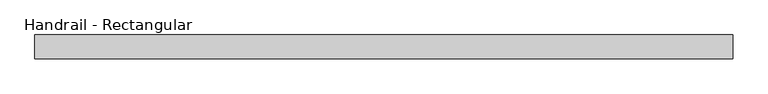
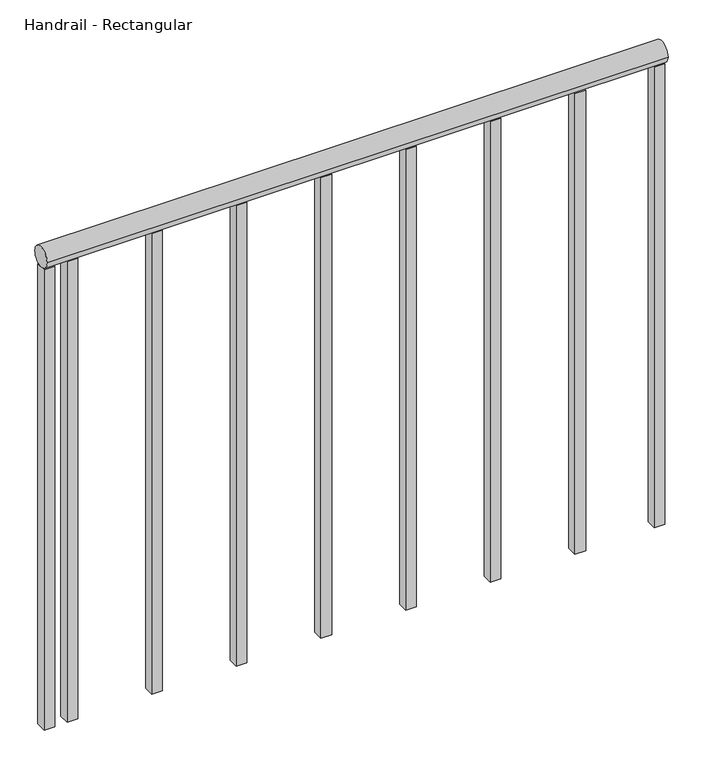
"""IFC4 building model written with IfcOpenShell, lengths in millimetres: railing geometry, Handrail - Rectangular."""

from ifc_helpers import new_model, si_unit, point, frame, frame_2d, origin, place, context, project, spatial, polyline, circle_curve, trimmed, segment, composite_curve, outline, extrude, source, transform, mapped, element, save


def handrail_rectangular_1508d83e(model_context):
    return source(origin(), model_context, "Body", "SweptSolid", [
        extrude(outline(composite_curve([segment(trimmed(circle_curve(frame_2d((4375.6316867, 3943.35)), 19.05), [point((4356.5816867, 3943.35))], [point((4394.6816867, 3943.35))], False, "CARTESIAN"), True, "CONTINUOUS"), segment(trimmed(circle_curve(frame_2d((4375.6316867, 3943.35)), 19.05), [point((4394.6816867, 3943.35))], [point((4356.5816867, 3943.35))], False, "CARTESIAN"), True, "CONTINUOUS")], self_intersect=False)), frame((976.3410437, 0.0, 0.0), z_axis=(1.0, 0.0, 0.0), x_axis=(0.0, 1.0, 0.0)), (0.0, 0.0, 1.0), 1117.6),
        extrude(outline(polyline([(1036.6660437, 4385.1566867), (1036.6660437, 4366.1066867), (1017.6160437, 4366.1066867), (1017.6160437, 4385.1566867), (1036.6660437, 4385.1566867)])), frame((0.0, 0.0, 3048.0), z_axis=(0.0, 0.0, 1.0), x_axis=(1.0, 0.0, 0.0)), (0.0, 0.0, 1.0), 876.3),
        extrude(outline(polyline([(1189.0660437, 4385.1566867), (1189.0660437, 4366.1066867), (1170.0160437, 4366.1066867), (1170.0160437, 4385.1566867), (1189.0660437, 4385.1566867)])), frame((0.0, 0.0, 3048.0), z_axis=(0.0, 0.0, 1.0), x_axis=(1.0, 0.0, 0.0)), (0.0, 0.0, 1.0), 876.3),
        extrude(outline(polyline([(1341.4660437, 4385.1566867), (1341.4660437, 4366.1066867), (1322.4160437, 4366.1066867), (1322.4160437, 4385.1566867), (1341.4660437, 4385.1566867)])), frame((0.0, 0.0, 3048.0), z_axis=(0.0, 0.0, 1.0), x_axis=(1.0, 0.0, 0.0)), (0.0, 0.0, 1.0), 876.3),
        extrude(outline(polyline([(1493.8660437, 4385.1566867), (1493.8660437, 4366.1066867), (1474.8160437, 4366.1066867), (1474.8160437, 4385.1566867), (1493.8660437, 4385.1566867)])), frame((0.0, 0.0, 3048.0), z_axis=(0.0, 0.0, 1.0), x_axis=(1.0, 0.0, 0.0)), (0.0, 0.0, 1.0), 876.3),
        extrude(outline(polyline([(1646.2660437, 4385.1566867), (1646.2660437, 4366.1066867), (1627.2160437, 4366.1066867), (1627.2160437, 4385.1566867), (1646.2660437, 4385.1566867)])), frame((0.0, 0.0, 3048.0), z_axis=(0.0, 0.0, 1.0), x_axis=(1.0, 0.0, 0.0)), (0.0, 0.0, 1.0), 876.3),
        extrude(outline(polyline([(1798.6660437, 4385.1566867), (1798.6660437, 4366.1066867), (1779.6160437, 4366.1066867), (1779.6160437, 4385.1566867), (1798.6660437, 4385.1566867)])), frame((0.0, 0.0, 3048.0), z_axis=(0.0, 0.0, 1.0), x_axis=(1.0, 0.0, 0.0)), (0.0, 0.0, 1.0), 876.3),
        extrude(outline(polyline([(1951.0660437, 4385.1566867), (1951.0660437, 4366.1066867), (1932.0160437, 4366.1066867), (1932.0160437, 4385.1566867), (1951.0660437, 4385.1566867)])), frame((0.0, 0.0, 3048.0), z_axis=(0.0, 0.0, 1.0), x_axis=(1.0, 0.0, 0.0)), (0.0, 0.0, 1.0), 876.3),
        extrude(outline(polyline([(995.3910437, 4385.1566867), (995.3910437, 4366.1066867), (976.3410437, 4366.1066867), (976.3410437, 4385.1566867), (995.3910437, 4385.1566867)])), frame((0.0, 0.0, 3048.0), z_axis=(0.0, 0.0, 1.0), x_axis=(1.0, 0.0, 0.0)), (0.0, 0.0, 1.0), 876.3),
        extrude(outline(polyline([(2093.9410437, 4385.1566867), (2093.9410437, 4366.1066867), (2074.8910437, 4366.1066867), (2074.8910437, 4385.1566867), (2093.9410437, 4385.1566867)])), frame((0.0, 0.0, 3048.0), z_axis=(0.0, 0.0, 1.0), x_axis=(1.0, 0.0, 0.0)), (0.0, 0.0, 1.0), 876.3),
    ])


if __name__ == "__main__":
    model = new_model("IFC4")
    model_context = context("Model", 3, world=origin())
    ifc_project = project(units=[si_unit("LENGTHUNIT", "METRE", prefix="MILLI")], contexts=[model_context])
    site = spatial("IfcSite", under=ifc_project)
    building = spatial("IfcBuilding", under=site)
    placement = place(None, origin())
    handrail_rectangular_shape = handrail_rectangular_1508d83e(model_context)
    element("IfcRailing", 1, ObjectType="Handrail - Rectangular", at=placement, inside=building, context=model_context, shape_type="MappedRepresentation", body=[
        mapped(handrail_rectangular_shape, transform((0.0, 0.0, 0.0), x_axis=(1.0, 0.0, 0.0), y_axis=(0.0, 1.0, 0.0), z_axis=(0.0, 0.0, 1.0))),
    ])
    save(model, "model.ifc")
